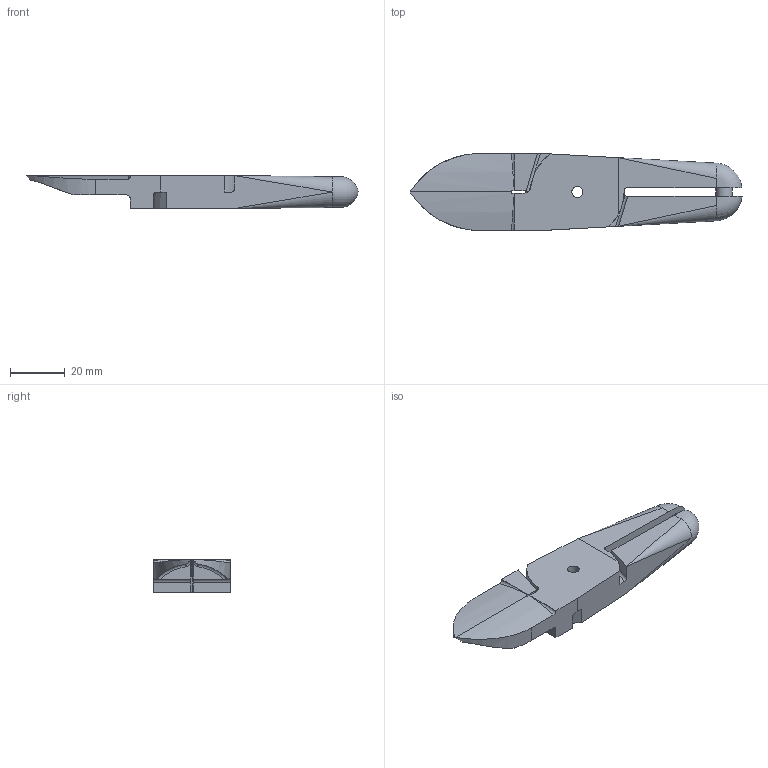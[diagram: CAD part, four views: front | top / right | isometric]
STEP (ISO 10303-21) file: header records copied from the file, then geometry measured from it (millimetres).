
FILE_DESCRIPTION(/* description */ (''),/* implementation_level */ '2;1');
FILE_NAME(/* name */ 'W:\Technik\Konstruktion\CAD-Daten\DJa\Vessel Schneidzangeneinsatz\N20AB39\N20AB39 closed.stp',/* time_stamp */ '2016-09-01T07:40:42+02:00',/* author */ ('DJansen'),/* organization */ (''),/* preprocessor_version */ 'ST-DEVELOPER v16.1',/* originating_system */ 'Autodesk Inventor 2016',/* authorisation */ '');
FILE_SCHEMA (('AUTOMOTIVE_DESIGN { 1 0 10303 214 3 1 1 }'));
Length unit declared in the file: centimetre
Products named in the file (1): N20AB39 Baugruppe
Bounding box: 121 x 28 x 12.04 mm (x, y, z)
Volume: 23146.1 mm3; surface area: 9650.1 mm2
Topology: 1 solids, 1 shells, 78 faces, 227 edges, 140 vertices
Faces by surface type: plane 42, cylinder 24, bspline 12
Full cylindrical faces by diameter (mm): 4.1 x1, 6 x1
Entity records: 6253 total; most frequent: CARTESIAN_POINT 4197, ORIENTED_EDGE 432, DIRECTION 372, EDGE_CURVE 215, VERTEX_POINT 140, LINE 130, VECTOR 130, AXIS2_PLACEMENT_3D 121
